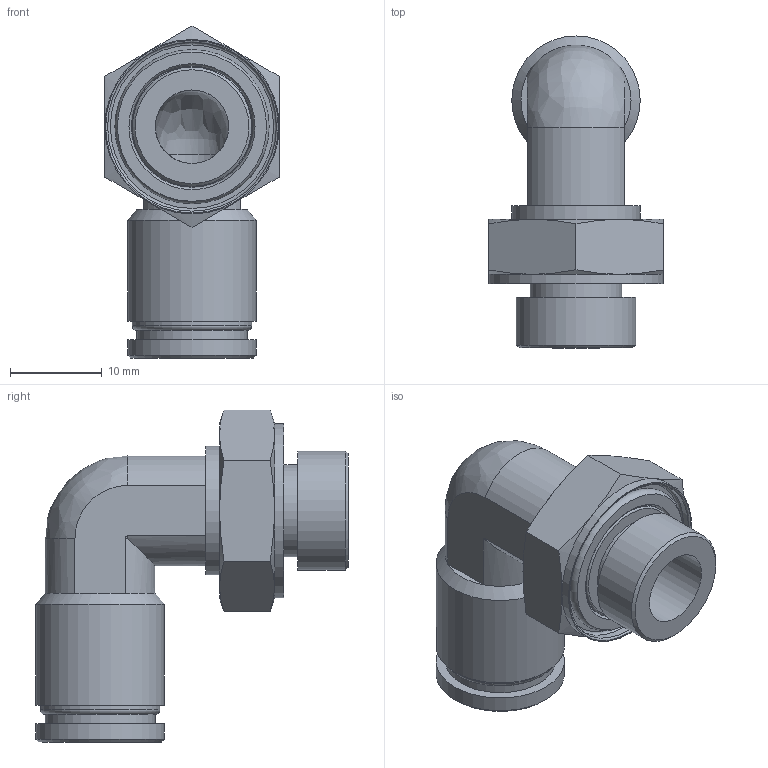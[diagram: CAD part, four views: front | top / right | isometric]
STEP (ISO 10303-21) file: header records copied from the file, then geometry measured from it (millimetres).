
FILE_DESCRIPTION(/* description */ (''),/* implementation_level */ '2;1');
FILE_NAME(/* name */ 'LXH28 0010 B2.stp',/* time_stamp */ '2026-04-30T12:34:20+02:00',/* author */ ('freju'),/* organization */ (''),/* preprocessor_version */ 'ST-DEVELOPER v20.1',/* originating_system */ 'Autodesk Inventor 2026',/* authorisation */ '');
FILE_SCHEMA (('AUTOMOTIVE_DESIGN { 1 0 10303 214 3 1 1 }'));
Length unit declared in the file: millimetre
Products named in the file (4): LXH28 0010 B2; LXH28 0010 B2_1; O-Ring; ISO 3601-1 - A 0132 G
Assembly tree (3 placements, depth 3):
  LXH28 0010 B2
    LXH28 0010 B2_1
    O-Ring
      ISO 3601-1 - A 0132 G
Bounding box: 19 x 34 x 36.17 mm (x, y, z)
Volume: 4558.8 mm3; surface area: 4685.1 mm2
Topology: 2 solids, 2 shells, 66 faces, 145 edges, 88 vertices
Faces by surface type: plane 23, cylinder 17, cone 15, torus 7, bspline 4
Full cylindrical faces by diameter (mm): 8 x2, 10 x2, 12 x1, 13 x2, 13.2 x1, 14 x3, 18.4 x1, 19 x1
Entity records: 1970 total; most frequent: CARTESIAN_POINT 406, DIRECTION 338, ORIENTED_EDGE 282, AXIS2_PLACEMENT_3D 152, EDGE_CURVE 141, VERTEX_POINT 88, CIRCLE 81, EDGE_LOOP 79
